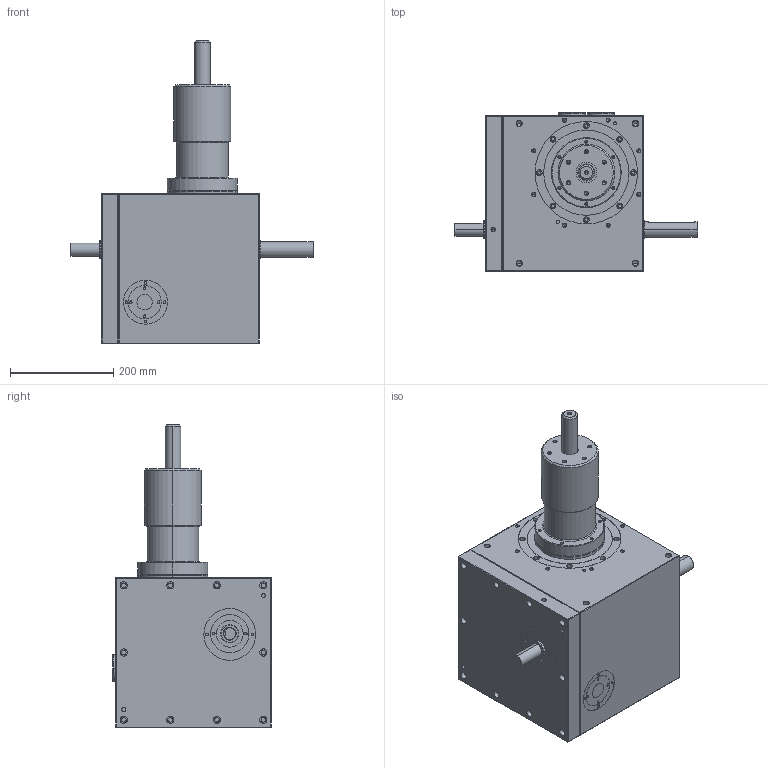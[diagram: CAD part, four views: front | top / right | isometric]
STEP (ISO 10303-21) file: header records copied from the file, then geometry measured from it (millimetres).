
FILE_DESCRIPTION((''),'2;1');
FILE_NAME('11FH','2016-01-27T',('松仔'),(''),'PRO/ENGINEER BY PARAMETRIC TECHNOLOGY CORPORATION, 2013430','PRO/ENGINEER BY PARAMETRIC TECHNOLOGY CORPORATION, 2013430','');
FILE_SCHEMA(('CONFIG_CONTROL_DESIGN'));
Length unit declared in the file: millimetre
Products named in the file (1): 11FH
Bounding box: 470 x 306 x 586 mm (x, y, z)
Volume: 28363105 mm3; surface area: 934774.2 mm2
Topology: 3 solids, 30 shells, 760 faces, 1764 edges, 1122 vertices
Faces by surface type: cylinder 410, plane 157, cone 117, torus 55, sphere 16, bspline 5
Entity records: 22261 total; most frequent: DIRECTION 4292, CARTESIAN_POINT 4174, ORIENTED_EDGE 3306, AXIS2_PLACEMENT_3D 1850, EDGE_CURVE 1712, VERTEX_POINT 1122, CIRCLE 1094, EDGE_LOOP 952
